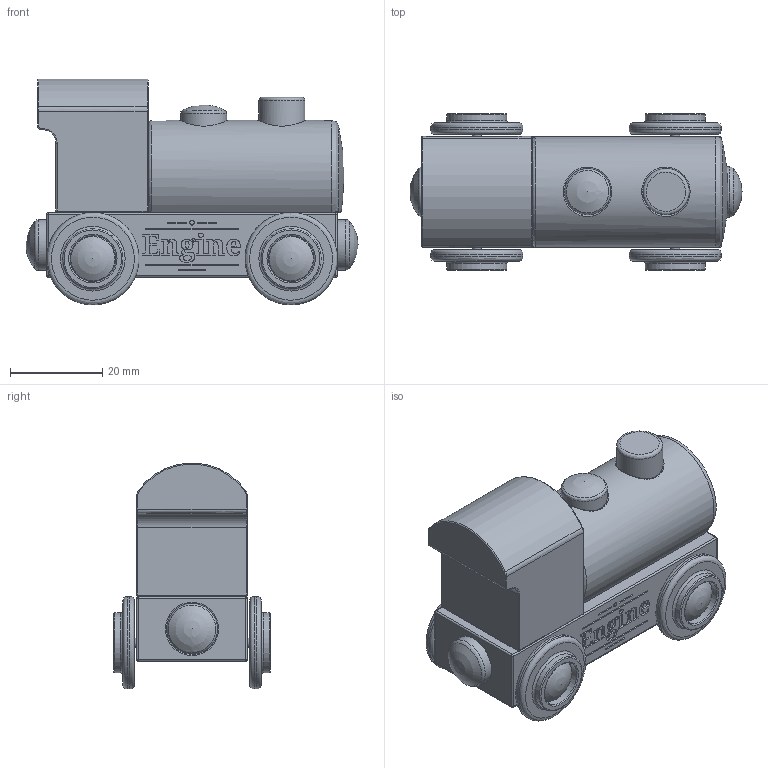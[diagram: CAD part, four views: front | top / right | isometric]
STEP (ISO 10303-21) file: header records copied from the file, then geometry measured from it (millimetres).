
FILE_DESCRIPTION( ( '' ), ' ' );
FILE_NAME( '/vol/tmp/translate-7156416983168532272/58415cb2c1ad3a10bad08022.step', '2016-12-02T11:36:19', ( '' ), ( '' ), ' ', ' ', ' ' );
FILE_SCHEMA( ( 'AUTOMOTIVE_DESIGN { 1 0 10303 214 1 1 1 1 }' ) );
Length unit declared in the file: metre
Products named in the file (16): Wheel <1>; Wheel_WhiteTranslucent; Hubcap_ShinyChrome; Wheel <2>; Wheels on axle <1>; Axle_ShinyChrome; Wheels on axle <2>; Assem1; Cabin_FireRed; Boiler_LightBlue; Dome_DeepOrange; Coupling_LightOrange; Chimney_ShinyWhite; Base_BlackWood
Assembly tree (23 placements, depth 4):
  Assem1
    Cabin_FireRed
    Boiler_LightBlue
    Dome_DeepOrange
    Coupling_LightOrange  x2
    Chimney_ShinyWhite
    Base_BlackWood
    Wheels on axle <1>
      Axle_ShinyChrome
      Wheel <1>
        Wheel_WhiteTranslucent
        Hubcap_ShinyChrome
      Wheel <2>
        Wheel_WhiteTranslucent
        Hubcap_ShinyChrome
    Wheels on axle <2>
      Axle_ShinyChrome
      Wheel <1>
        Wheel_WhiteTranslucent
        Hubcap_ShinyChrome
      Wheel <2>
        Wheel_WhiteTranslucent
        Hubcap_ShinyChrome
Bounding box: 72 x 34 x 48.95 mm (x, y, z)
Volume: 56908.7 mm3; surface area: 19996.8 mm2
Topology: 17 solids, 17 shells, 845 faces, 2246 edges, 1463 vertices
Faces by surface type: extrusion 454, plane 257, cylinder 62, bspline 32, torus 24, sphere 16
Full cylindrical faces by diameter (mm): 1 x2, 2 x8, 10 x12, 11 x4, 13 x4, 20 x4
Entity records: 39707 total; most frequent: CARTESIAN_POINT 15317, ORIENTED_EDGE 4192, DIRECTION 2351, EDGE_CURVE 2096, VECTOR 1493, B_SPLINE_CURVE_WITH_KNOTS 1420, VERTEX_POINT 1399, LINE 1039
